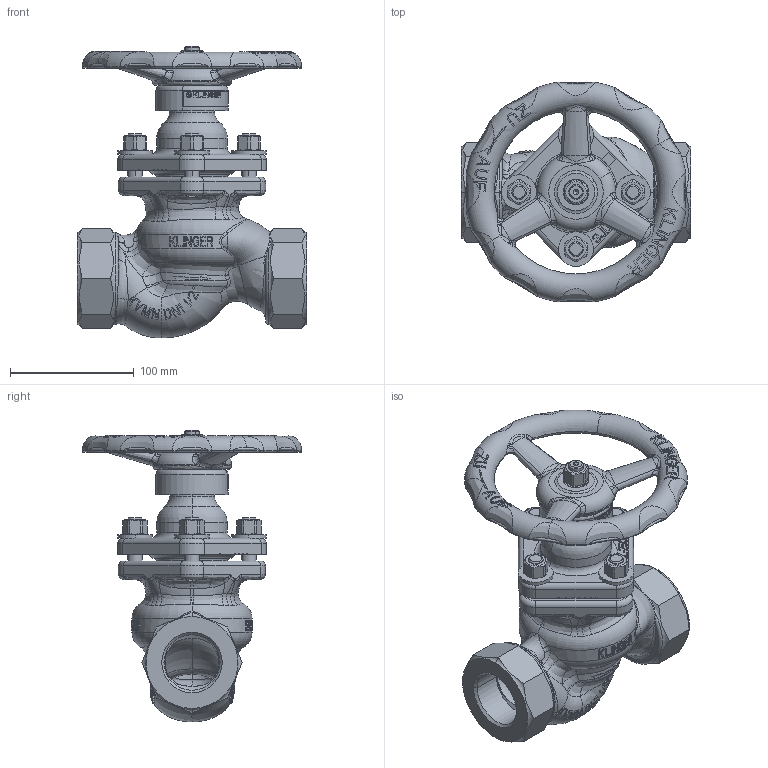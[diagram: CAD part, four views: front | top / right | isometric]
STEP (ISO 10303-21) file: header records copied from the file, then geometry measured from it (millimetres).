
FILE_DESCRIPTION((''),'2;1');
FILE_NAME('KVMN-G32S-----P016DGG_SW0001','2015-07-09T',('jeitlers'),('RAND'),'PRO/ENGINEER BY PARAMETRIC TECHNOLOGY CORPORATION, 2013410','PRO/ENGINEER BY PARAMETRIC TECHNOLOGY CORPORATION, 2013410','');
FILE_SCHEMA(('CONFIG_CONTROL_DESIGN'));
Products named in the file (1): KVMN-G32S-----P016DGG_SW0001
Bounding box: 185 x 177.48 x 235.8 mm (x, y, z)
Volume: 1057601.4 mm3; surface area: 259283.4 mm2
Topology: 2 solids, 2 shells, 2659 faces, 7057 edges, 4476 vertices
Faces by surface type: plane 1455, bspline 604, cylinder 334, torus 149, cone 116, extrusion 1
Entity records: 189165 total; most frequent: CARTESIAN_POINT 130078, ORIENTED_EDGE 14106, DIRECTION 9633, EDGE_CURVE 7053, VERTEX_POINT 4476, AXIS2_PLACEMENT_3D 3412, B_SPLINE_CURVE_WITH_KNOTS 2888, VECTOR 2809
